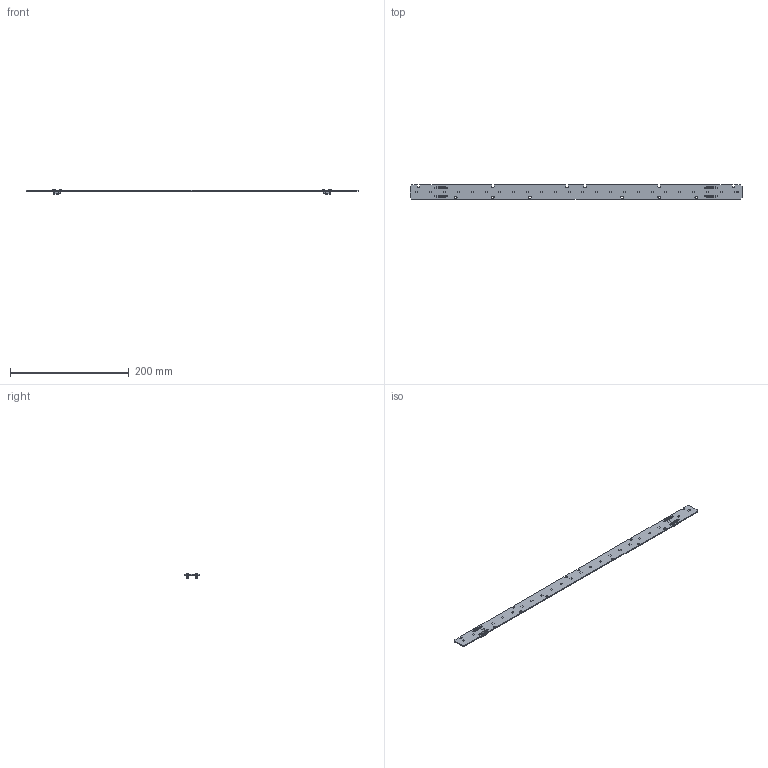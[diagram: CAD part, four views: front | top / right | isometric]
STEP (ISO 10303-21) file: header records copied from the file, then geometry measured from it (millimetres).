
FILE_DESCRIPTION((''),'2;1');
FILE_NAME('16208811_LLE5LV-24X560-1300LMBT','2020-06-17T14:34:51',('bernhard.fink'),(''),'CREO PARAMETRIC BY PTC INC, 2019164','CREO PARAMETRIC BY PTC INC, 2019164','');
FILE_SCHEMA(('CONFIG_CONTROL_DESIGN'));
Products named in the file (1): 16208811_LLE5LV-24X560-1300LMBT
Bounding box: 559 x 23.6 x 7.4 mm (x, y, z)
Volume: 21159.9 mm3; surface area: 30826.2 mm2
Topology: 25 solids, 29 shells, 1443 faces, 4074 edges, 2704 vertices
Faces by surface type: plane 1011, cylinder 312, extrusion 88, cone 16, bspline 16
Entity records: 95775 total; most frequent: CARTESIAN_POINT 58990, ORIENTED_EDGE 7996, DIRECTION 6870, EDGE_CURVE 4074, VECTOR 2942, LINE 2854, VERTEX_POINT 2704, AXIS2_PLACEMENT_3D 1964
